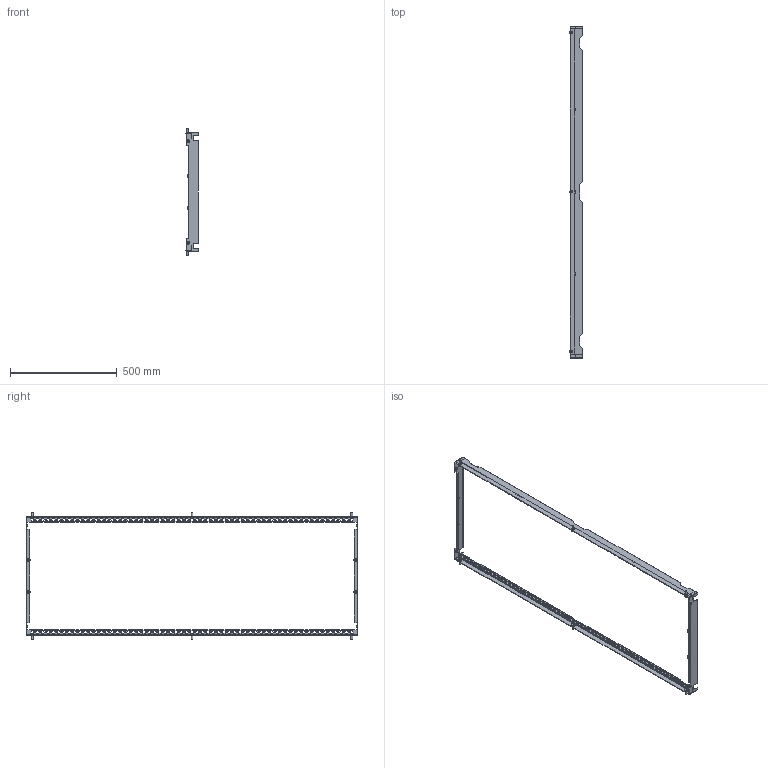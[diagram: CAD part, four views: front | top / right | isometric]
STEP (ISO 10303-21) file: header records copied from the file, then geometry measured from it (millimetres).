
FILE_DESCRIPTION (( 'STEP AP203' ), '1' );
FILE_NAME ('R6IP1660.step', '2025-07-11T08:07:26', ( '' ), ( '' ), 'SwSTEP 2.0', 'SolidWorks 2022', '' );
FILE_SCHEMA (( 'CONFIG_CONTROL_DESIGN' ));
Length unit declared in the file: millimetre
Products named in the file (9): RB.3320.00.02.0_-03; RB.3321.00.00.0 СБ; RB.3320.00.00.0 СБ_-03; RB.3320.00.01.0_-03; R6IP1660; M6 DIN 6923 cl.8,0 Zinc_straight; Pressing nut М6 S-M6-1; RB.3321.00.01.0; M8x20 DIN 6921 cl.8,8 Zinc_straight
Assembly tree (21 placements, depth 3):
  R6IP1660
    RB.3320.00.00.0 СБ_-03  x2
      RB.3320.00.01.0_-03
      RB.3320.00.02.0_-03
    RB.3321.00.00.0 СБ  x2
      RB.3321.00.01.0
      Pressing nut М6 S-M6-1
    M6 DIN 6923 cl.8,0 Zinc_straight  x5
    M8x20 DIN 6921 cl.8,8 Zinc_straight  x7
Bounding box: 57.76 x 1557.6 x 593.2 mm (x, y, z)
Volume: 505495.4 mm3; surface area: 798664.6 mm2
Topology: 22 solids, 22 shells, 4564 faces, 13269 edges, 8756 vertices
Faces by surface type: plane 3275, cylinder 1081, cone 117, bspline 72, torus 19
Full cylindrical faces by diameter (mm): 5 x9, 6 x5, 8 x11, 8.73 x4, 8.85 x4, 11.1 x4
Entity records: 64757 total; most frequent: CARTESIAN_POINT 11826, ORIENTED_EDGE 11012, DIRECTION 10320, EDGE_CURVE 5506, VECTOR 4284, LINE 4284, VERTEX_POINT 3658, AXIS2_PLACEMENT_3D 3018
